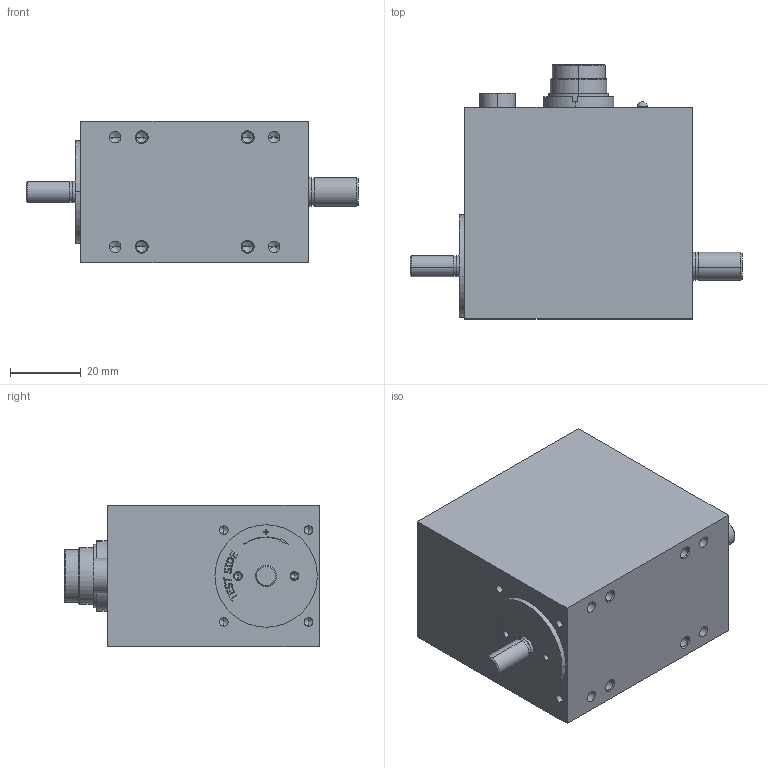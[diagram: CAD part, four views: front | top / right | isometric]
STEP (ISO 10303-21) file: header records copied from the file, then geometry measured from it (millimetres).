
FILE_DESCRIPTION(('STEP AP214'),'1');
FILE_NAME('burster_8661-5002-vxx00_a7u0x367o3q6h2acs6294t5c4.stp','2017-04-20T20:11:42',('TraceParts'),('TraceParts S.A.'),'Spatial InterOp 3D',' ',' ');
FILE_SCHEMA(('automotive_design'));
Length unit declared in the file: millimetre
Products named in the file (1): burster_8661-5002-vxx00_a7u0x367o3q6h2acs6294t5c4
Bounding box: 94 x 72 x 40 mm (x, y, z)
Volume: 157464.8 mm3; surface area: 22041.7 mm2
Topology: 1 solids, 6 shells, 739 faces, 1979 edges, 1272 vertices
Faces by surface type: plane 312, cylinder 182, cone 126, bspline 57, torus 32, sphere 30
Entity records: 29445 total; most frequent: CARTESIAN_POINT 5216, ORIENTED_EDGE 3826, DIRECTION 3754, EDGE_CURVE 1913, AXIS2_PLACEMENT_3D 1341, VERTEX_POINT 1272, LINE 1072, VECTOR 1072
